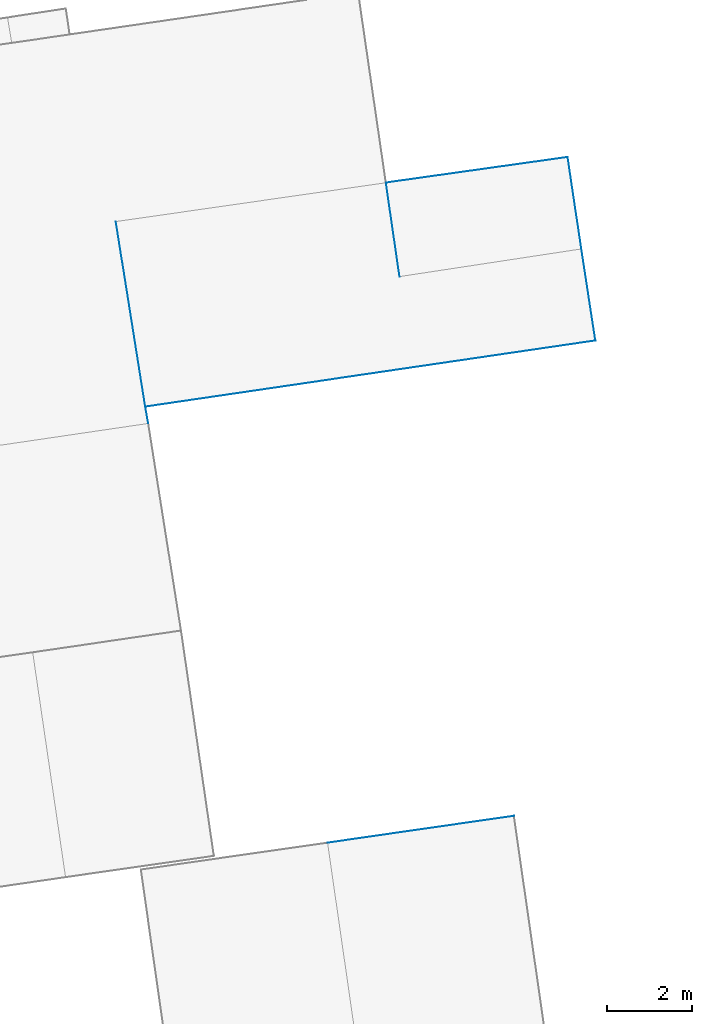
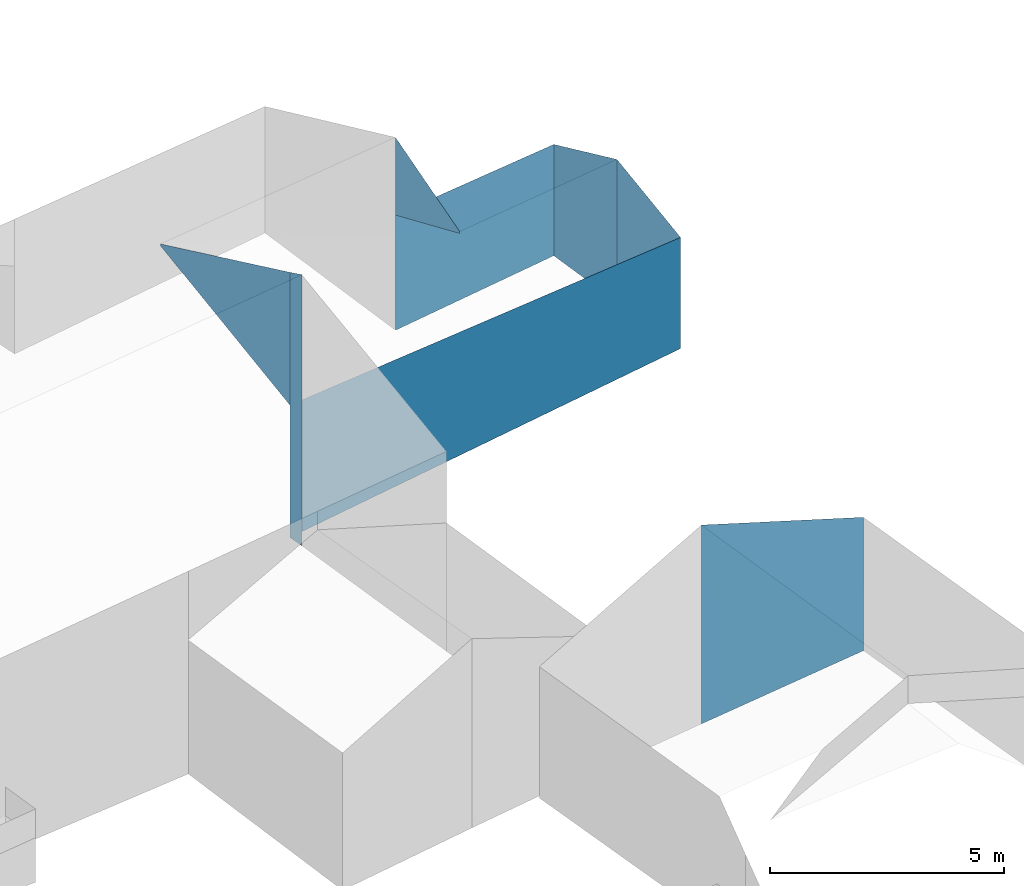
# Not in any storey, part 2 of 59: 8 walls.
"""IFC4 building model written with IfcOpenShell, lengths in metres."""

import ifcopenshell
import ifcopenshell.guid

model = None  # the IFC model being written
_history = None  # IfcOwnerHistory: only IFC2X3 demands one
_inside = {}  # id of a spatial element -> (the spatial element, [elements in it])
_under = {}  # id of a project, library or spatial element -> (it, [spatial elements below it])
_declared = {}  # id of a project -> (the project, [libraries it declares])
_typed = {}  # id of a type object -> (the type object, [elements of that type])
_made_of = {}  # id of a material, layer set ... -> (it, [elements and type objects made of it])


def new_model(schema):
    """Start an empty IFC model of exactly this schema.

    Asked for "IFC4X3", IfcOpenShell would pick the latest addendum, in which some entities
    have other attributes; the version numbers below select the first issue.
    IFC2X3 requires an IfcOwnerHistory on every rooted entity: one is made here for all.
    """
    global model, _history
    if schema == "IFC4X3":
        model = ifcopenshell.file(schema_version=(4, 3, 0, 0))
    else:
        model = ifcopenshell.file(schema=schema)
    _inside.clear()
    _under.clear()
    _declared.clear()
    _typed.clear()
    _made_of.clear()
    _history = None
    if model.schema == "IFC2X3":
        org = make("IfcOrganization", Name="unknown")
        user = make(
            "IfcPersonAndOrganization",
            ThePerson=make("IfcPerson", FamilyName="unknown"),
            TheOrganization=org,
        )
        app = make(
            "IfcApplication",
            ApplicationDeveloper=org,
            Version="unknown",
            ApplicationFullName="unknown",
            ApplicationIdentifier="unknown",
        )
        _history = make(
            "IfcOwnerHistory",
            OwningUser=user,
            OwningApplication=app,
            ChangeAction="ADDED",
            CreationDate=0,
        )
    return model


def make(cls, **values):
    """One entity of the class cls with the attributes given. An attribute that is None is left unset."""
    return model.create_entity(
        cls, **{name: value for name, value in values.items() if value is not None}
    )


def entity(cls, *values):
    """Any entity or typed value of the class cls, its attributes in the order of the schema. None: left unset."""
    e = model.create_entity(cls)
    for i, value in enumerate(values):
        if value is not None:
            e[i] = value
    return e


def rooted(cls, **values):
    """An entity with a GlobalId (a new one), such as an element, a storey or a relation."""
    return make(cls, GlobalId=ifcopenshell.guid.new(), OwnerHistory=_history, **values)


def si_unit(unit_type, name, prefix=None):
    """IfcSIUnit, for example si_unit("LENGTHUNIT", "METRE", prefix="MILLI")."""
    return make("IfcSIUnit", UnitType=unit_type, Prefix=prefix, Name=name)


def converted_unit(unit_type, name, factor, base, dimensions=None, offset=None):
    """IfcConversionBasedUnit, such as the inch: factor (a typed value) times the base unit."""
    return make(
        "IfcConversionBasedUnit"
        if offset is None
        else "IfcConversionBasedUnitWithOffset",
        ConversionOffset=offset,
        Dimensions=None
        if dimensions is None
        else entity("IfcDimensionalExponents", *dimensions),
        UnitType=unit_type,
        Name=name,
        ConversionFactor=make(
            "IfcMeasureWithUnit", ValueComponent=factor, UnitComponent=base
        ),
    )


def assignment(units):
    """IfcUnitAssignment: the units of a project."""
    return None if units is None else make("IfcUnitAssignment", Units=units)


def point(xyz):
    """IfcCartesianPoint."""
    return None if xyz is None else make("IfcCartesianPoint", Coordinates=xyz)


def direction(xyz):
    """IfcDirection."""
    return None if xyz is None else make("IfcDirection", DirectionRatios=xyz)


def frame(location, z_axis=None, x_axis=None):
    """IfcAxis2Placement3D, a coordinate frame: its origin and axes. An axis left out is left unset."""
    return make(
        "IfcAxis2Placement3D",
        Location=point(location),
        Axis=direction(z_axis),
        RefDirection=direction(x_axis),
    )


def origin():
    """The frame at (0, 0, 0) with its axes left unset."""
    return frame((0.0, 0.0, 0.0))


def place(relative_to, where):
    """IfcLocalPlacement: puts the frame where relative to a parent placement (None: the world)."""
    return make(
        "IfcLocalPlacement", PlacementRelTo=relative_to, RelativePlacement=where
    )


def context(
    kind, dimensions, precision=None, world=None, true_north=None, identifier=None
):
    """IfcGeometricRepresentationContext, for example the 3D "Model" context."""
    return make(
        "IfcGeometricRepresentationContext",
        ContextIdentifier=identifier,
        ContextType=kind,
        CoordinateSpaceDimension=dimensions,
        Precision=precision,
        WorldCoordinateSystem=world,
        TrueNorth=true_north,
    )


def subcontext(parent, identifier, kind, view, scale=None):
    """IfcGeometricRepresentationSubContext, for example "Body" below "Model"."""
    return make(
        "IfcGeometricRepresentationSubContext",
        ContextIdentifier=identifier,
        ContextType=kind,
        ParentContext=parent,
        TargetScale=scale,
        TargetView=view,
    )


def project(units=None, contexts=None):
    """IfcProject with its units and contexts."""
    return rooted(
        "IfcProject",
        Name="project",
        RepresentationContexts=contexts,
        UnitsInContext=assignment(units),
    )


def spatial(cls, under=None, at=None, **own):
    """A site, building, storey or space (cls), placed at a placement, below another one or the project."""
    s = rooted(cls, ObjectPlacement=at, **own)
    if under is not None:
        _under.setdefault(under.id(), (under, []))[1].append(s)
    return s


def faces_of(points, faces, orient=None, outer=None):
    """IfcFace entities. A face is a list of loops; a loop is a list of indices into points, from 0.

    orient and outer hold one flag for each loop. By default every Orientation is true, the
    first loop of a face is its IfcFaceOuterBound and the others are IfcFaceBound.
    """
    made = []
    for i, loops in enumerate(faces):
        bounds = []
        for j, loop in enumerate(loops):
            is_outer = j == 0 if outer is None else outer[i][j]
            bounds.append(
                make(
                    "IfcFaceOuterBound" if is_outer else "IfcFaceBound",
                    Bound=make("IfcPolyLoop", Polygon=[points[k] for k in loop]),
                    Orientation=True if orient is None else orient[i][j],
                )
            )
        made.append(make("IfcFace", Bounds=bounds))
    return made


def face_set(faces, orient=None, outer=None):
    """The faces of one IfcConnectedFaceSet. surface_model builds it on its shared points."""
    return ("IfcConnectedFaceSet", faces, orient, outer)


def surface_model(cls, points, shells):
    """IfcFaceBasedSurfaceModel or IfcShellBasedSurfaceModel (cls): surfaces that need not close."""
    shared = [point(p) for p in points]
    made = [make(c, CfsFaces=faces_of(shared, fs, o, b)) for c, fs, o, b in shells]
    if cls == "IfcFaceBasedSurfaceModel":
        return make(cls, FbsmFaces=made)
    return make(cls, SbsmBoundary=made)


def shape(context_of_items, identifier, shape_type, items):
    """IfcShapeRepresentation: the items that make up one representation, for example the "Body"."""
    return make(
        "IfcShapeRepresentation",
        ContextOfItems=context_of_items,
        RepresentationIdentifier=identifier,
        RepresentationType=shape_type,
        Items=items,
    )


def made_of(thing, what):
    """Note that an element or type object is made of a material, layer set ...; save() writes the relation."""
    if what is not None:
        _made_of.setdefault(what.id(), (what, []))[1].append(thing)
    return thing


def element(
    cls,
    number,
    at=None,
    inside=None,
    cuts=None,
    type_object=None,
    material=None,
    context=None,
    identifier="Body",
    shape_type=None,
    held_by="IfcProductDefinitionShape",
    body=None,
    shapes=None,
    **own,
):
    """One element of the class cls, such as IfcWall. Its Tag is "e" and its number.

    at: its placement. inside: the storey or other place that contains it. cuts: it is an
    opening in that element (IfcRelVoidsElement). A single representation is given by context,
    identifier, shape_type and body (its items); several are given by shapes. held_by: the class
    of the entity that holds the representations. save() writes the other relations.
    """
    e = rooted(cls, Tag="e%d" % number, ObjectPlacement=at, **own)
    if body is not None:
        shapes = [shape(context, identifier, shape_type, body)]
    if shapes is not None:
        e.Representation = make(held_by, Representations=shapes)
    if inside is not None:
        _inside.setdefault(inside.id(), (inside, []))[1].append(e)
    if cuts is not None:
        rooted(
            "IfcRelVoidsElement", RelatingBuildingElement=cuts, RelatedOpeningElement=e
        )
    if type_object is not None:
        _typed.setdefault(type_object.id(), (type_object, []))[1].append(e)
    return made_of(e, material)


def aggregate(whole, parts):
    """IfcRelAggregates: a whole, such as a stair, and the parts it consists of."""
    return rooted("IfcRelAggregates", RelatingObject=whole, RelatedObjects=parts)


def save(model, path):
    """Write the relations noted so far, then the file.

    IfcRelAggregates (storeys below a building ...), IfcRelContainedInSpatialStructure (elements
    in a storey), IfcRelDefinesByType, IfcRelAssociatesMaterial and IfcRelDeclares: one each for
    every whole, place, type object, material and project.
    """
    for whole, parts in _under.values():
        aggregate(whole, parts)
    for where, things in _inside.values():
        rooted(
            "IfcRelContainedInSpatialStructure",
            RelatedElements=things,
            RelatingStructure=where,
        )
    for kind, things in _typed.values():
        rooted("IfcRelDefinesByType", RelatedObjects=things, RelatingType=kind)
    for what, things in _made_of.values():
        rooted("IfcRelAssociatesMaterial", RelatedObjects=things, RelatingMaterial=what)
    for by, libraries in _declared.values():
        rooted("IfcRelDeclares", RelatingContext=by, RelatedDefinitions=libraries)
    model.write(path)


model = new_model("IFC4")

# Units and contexts
model_context = context("Model", 3, precision=1e-05, world=origin())
body_context = subcontext(model_context, "Body", "Model", "MODEL_VIEW")
ifc_project = project(units=[converted_unit("PLANEANGLEUNIT", "DEGREE", entity("IfcRatioMeasure", 0.0174532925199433), si_unit("PLANEANGLEUNIT", "RADIAN"), dimensions=[0, 0, 0, 0, 0, 0, 0]), si_unit("AREAUNIT", "SQUARE_METRE"), si_unit("LENGTHUNIT", "METRE")], contexts=[model_context])

# Site, building
site_placement = place(None, origin())
site = spatial("IfcSite", under=ifc_project, at=site_placement, Name="_site")
building_1_placement = place(site_placement, origin())
building_1 = spatial("IfcBuilding", under=site, at=building_1_placement, Name="_building")

# Walls
wall_1_placement = place(building_1_placement, origin())
element("IfcWall", 1, at=wall_1_placement, inside=building_1, Name="Wall", PredefinedType="NOTDEFINED", context=body_context, shape_type="SurfaceModel", body=[
    surface_model("IfcFaceBasedSurfaceModel", [(92.78, 39.92, 224.45), (93.47, 35.58, 226.1), (93.47, 35.58, 222.63), (92.78, 39.92, 224.4)], [face_set([[[0, 1, 2, 3]]])]),
])
wall_2_placement = place(building_1_placement, origin())
element("IfcWall", 2, at=wall_2_placement, inside=building_1, Name="Wall", PredefinedType="NOTDEFINED", context=body_context, shape_type="SurfaceModel", body=[
    surface_model("IfcFaceBasedSurfaceModel", [(99.11, 40.83, 224.47), (99.43, 38.631, 223.23), (99.43, 38.631, 223.18), (99.11, 40.83, 222.44)], [face_set([[[0, 1, 2, 3]]])]),
])
wall_3_placement = place(building_1_placement, origin())
element("IfcWall", 3, at=wall_3_placement, inside=building_1, Name="Wall", PredefinedType="NOTDEFINED", context=body_context, shape_type="SurfaceModel", body=[
    surface_model("IfcFaceBasedSurfaceModel", [(93.47, 35.58, 226.1), (93.54, 35.189, 226.25), (93.54, 35.189, 219.165), (93.47, 35.58, 219.172)], [face_set([[[0, 1, 2, 3]]])]),
])
wall_4_placement = place(building_1_placement, origin())
element("IfcWall", 4, at=wall_4_placement, inside=building_1, Name="Wall", PredefinedType="NOTDEFINED", context=body_context, shape_type="SurfaceModel", body=[
    surface_model("IfcFaceBasedSurfaceModel", [(103.37, 41.43, 222.43), (103.69, 39.279, 223.23), (103.69, 39.279, 219.499), (103.37, 41.43, 219.52)], [face_set([[[0, 1, 2, 3]]])]),
])
wall_5_placement = place(building_1_placement, origin())
element("IfcWall", 5, at=wall_5_placement, inside=building_1, Name="Wall", PredefinedType="NOTDEFINED", context=body_context, shape_type="SurfaceModel", body=[
    surface_model("IfcFaceBasedSurfaceModel", [(103.69, 39.279, 223.23), (104.02, 37.131, 222.38), (104.02, 37.131, 219.473), (103.69, 39.279, 219.499)], [face_set([[[0, 1, 2, 3]]])]),
])
wall_6_placement = place(building_1_placement, origin())
element("IfcWall", 6, at=wall_6_placement, inside=building_1, Name="Wall", PredefinedType="NOTDEFINED", context=body_context, shape_type="SurfaceModel", body=[
    surface_model("IfcFaceBasedSurfaceModel", [(99.11, 40.83, 222.44), (103.37, 41.43, 222.43), (103.37, 41.43, 219.52), (99.11, 40.83, 219.426)], [face_set([[[0, 1, 2, 3]]])]),
])
wall_7_placement = place(building_1_placement, origin())
element("IfcWall", 7, at=wall_7_placement, inside=building_1, Name="Wall", PredefinedType="NOTDEFINED", context=body_context, shape_type="SurfaceModel", body=[
    surface_model("IfcFaceBasedSurfaceModel", [(104.02, 37.131, 222.38), (93.47, 35.58, 222.63), (93.47, 35.58, 219.172), (104.02, 37.131, 219.473)], [face_set([[[0, 1, 2, 3]]])]),
])

# Building
building_2_placement = place(site_placement, origin())
building_2 = spatial("IfcBuilding", under=site, at=building_2_placement, Name="_building")

# Wall
wall_8_placement = place(building_2_placement, origin())
element("IfcWall", 8, at=wall_8_placement, inside=building_2, Name="Wall", PredefinedType="NOTDEFINED", context=body_context, shape_type="SurfaceModel", body=[
    surface_model("IfcFaceBasedSurfaceModel", [(97.74, 25.359, 224.2), (102.11, 25.99, 222.49), (102.11, 25.99, 219.003), (97.74, 25.359, 219.0)], [face_set([[[0, 1, 2, 3]]])]),
])

save(model, "model.ifc")
